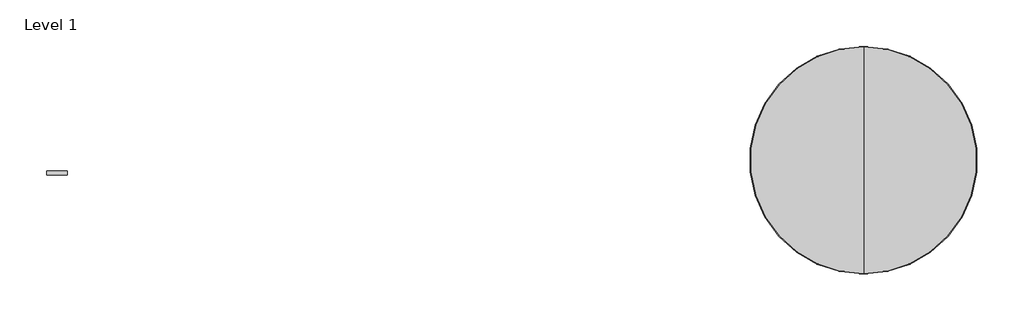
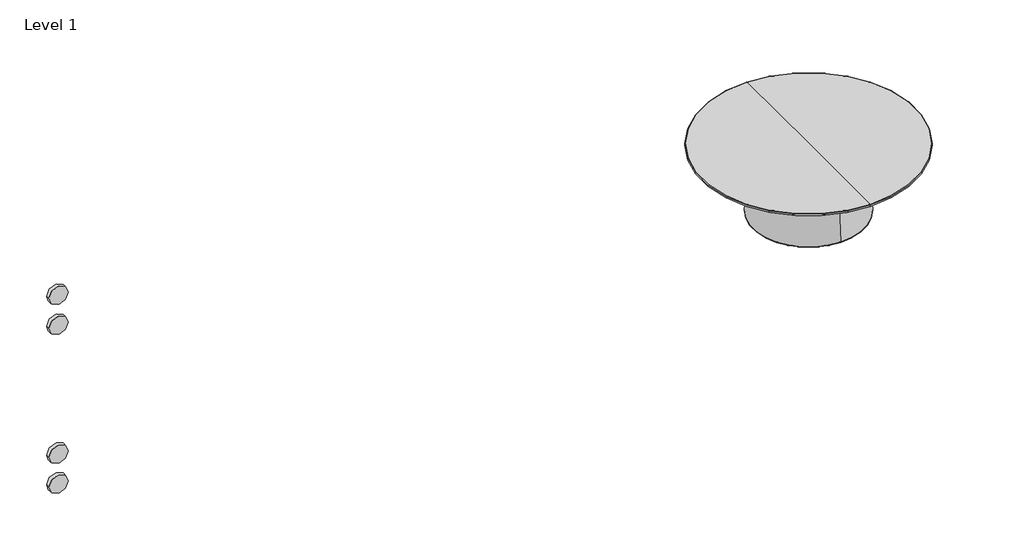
# One storey, incomplete: 4 proxies, 1 furniture element.
"""IFC4 building model written with IfcOpenShell, lengths in millimetres."""

from ifc_helpers import new_model, si_unit, origin, place, context, project, spatial, transform, mapped, element, save
from components import materialmodel_materialmodel_13df9e44, furniture_b57356bb

model = new_model("IFC4")

# Units and contexts
model_context = context("Model", 3, world=origin())
ifc_project = project(units=[si_unit("LENGTHUNIT", "METRE", prefix="MILLI")], contexts=[model_context])

# Site, building, storey
site = spatial("IfcSite", under=ifc_project)
building = spatial("IfcBuilding", under=site)
storey = spatial("IfcBuildingStorey", under=building, Name="Level 1", Elevation=0.0)

# Proxies
placement = place(None, origin())
materialmodel_materialmodel_shape = materialmodel_materialmodel_13df9e44(model_context)
element("IfcBuildingElementProxy", 1, Name="MaterialModel : MaterialModel", ObjectType="MaterialModel : MaterialModel", at=placement, inside=storey, context=model_context, shape_type="MappedRepresentation", body=[
    mapped(materialmodel_materialmodel_shape, transform((-12013.3424716, 6397.5703847, 84.293536), x_axis=(1.0, 0.0, 0.0), y_axis=(0.0, 1.0, 0.0), z_axis=(0.0, 0.0, 1.0))),
])
element("IfcBuildingElementProxy", 2, Name="MaterialModel : MaterialModel", ObjectType="MaterialModel : MaterialModel", at=placement, inside=storey, context=model_context, shape_type="MappedRepresentation", body=[
    mapped(materialmodel_materialmodel_shape, transform((-12013.3424716, 6397.5703847, -78.206464), x_axis=(1.0, 0.0, 0.0), y_axis=(0.0, 1.0, 0.0), z_axis=(0.0, 0.0, 1.0))),
])
element("IfcBuildingElementProxy", 3, Name="MaterialModel : MaterialModel", ObjectType="MaterialModel : MaterialModel", at=placement, inside=storey, context=model_context, shape_type="MappedRepresentation", body=[
    mapped(materialmodel_materialmodel_shape, transform((-12013.3424716, 6397.5703847, 946.9133372), x_axis=(1.0, 0.0, 0.0), y_axis=(0.0, 1.0, 0.0), z_axis=(0.0, 0.0, 1.0))),
])
element("IfcBuildingElementProxy", 4, Name="MaterialModel : MaterialModel", ObjectType="MaterialModel : MaterialModel", at=placement, inside=storey, context=model_context, shape_type="MappedRepresentation", body=[
    mapped(materialmodel_materialmodel_shape, transform((-12013.3424716, 6397.5703847, 784.4133372), x_axis=(1.0, 0.0, 0.0), y_axis=(0.0, 1.0, 0.0), z_axis=(0.0, 0.0, 1.0))),
])

# Furniture
furniture_shape = furniture_b57356bb(model_context)
element("IfcFurniture", 5, ObjectType="Fredericia - Niveau Coffee Table Ø110 - 6811 : Fredericia - Niveau Coffee Table Ø110 - 6811", at=placement, inside=storey, context=model_context, shape_type="MappedRepresentation", body=[
    mapped(furniture_shape, transform((-8120.3145198, 6459.3026396, 0.0), x_axis=(1.0, 0.0, 0.0), y_axis=(0.0, 1.0, 0.0), z_axis=(0.0, 0.0, 1.0))),
])

save(model, "model.ifc")
